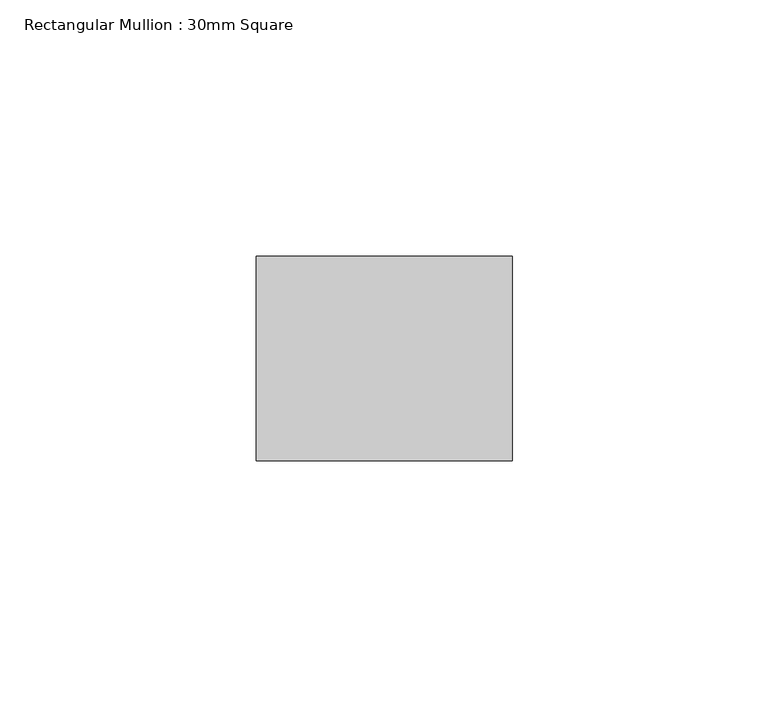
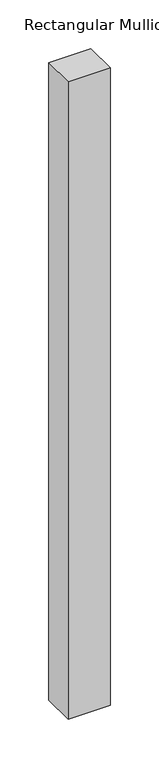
"""IFC4 building model written with IfcOpenShell, lengths in millimetres: member geometry, Rectangular Mullion : 30mm Square."""

import ifcopenshell
import ifcopenshell.guid

model = None  # the IFC model being written
_history = None  # IfcOwnerHistory: only IFC2X3 demands one
_inside = {}  # id of a spatial element -> (the spatial element, [elements in it])
_under = {}  # id of a project, library or spatial element -> (it, [spatial elements below it])
_declared = {}  # id of a project -> (the project, [libraries it declares])
_typed = {}  # id of a type object -> (the type object, [elements of that type])
_made_of = {}  # id of a material, layer set ... -> (it, [elements and type objects made of it])


def new_model(schema):
    """Start an empty IFC model of exactly this schema.

    Asked for "IFC4X3", IfcOpenShell would pick the latest addendum, in which some entities
    have other attributes; the version numbers below select the first issue.
    IFC2X3 requires an IfcOwnerHistory on every rooted entity: one is made here for all.
    """
    global model, _history
    if schema == "IFC4X3":
        model = ifcopenshell.file(schema_version=(4, 3, 0, 0))
    else:
        model = ifcopenshell.file(schema=schema)
    _inside.clear()
    _under.clear()
    _declared.clear()
    _typed.clear()
    _made_of.clear()
    _history = None
    if model.schema == "IFC2X3":
        org = make("IfcOrganization", Name="unknown")
        user = make(
            "IfcPersonAndOrganization",
            ThePerson=make("IfcPerson", FamilyName="unknown"),
            TheOrganization=org,
        )
        app = make(
            "IfcApplication",
            ApplicationDeveloper=org,
            Version="unknown",
            ApplicationFullName="unknown",
            ApplicationIdentifier="unknown",
        )
        _history = make(
            "IfcOwnerHistory",
            OwningUser=user,
            OwningApplication=app,
            ChangeAction="ADDED",
            CreationDate=0,
        )
    return model


def make(cls, **values):
    """One entity of the class cls with the attributes given. An attribute that is None is left unset."""
    return model.create_entity(
        cls, **{name: value for name, value in values.items() if value is not None}
    )


def rooted(cls, **values):
    """An entity with a GlobalId (a new one), such as an element, a storey or a relation."""
    return make(cls, GlobalId=ifcopenshell.guid.new(), OwnerHistory=_history, **values)


def si_unit(unit_type, name, prefix=None):
    """IfcSIUnit, for example si_unit("LENGTHUNIT", "METRE", prefix="MILLI")."""
    return make("IfcSIUnit", UnitType=unit_type, Prefix=prefix, Name=name)


def assignment(units):
    """IfcUnitAssignment: the units of a project."""
    return None if units is None else make("IfcUnitAssignment", Units=units)


def point(xyz):
    """IfcCartesianPoint."""
    return None if xyz is None else make("IfcCartesianPoint", Coordinates=xyz)


def direction(xyz):
    """IfcDirection."""
    return None if xyz is None else make("IfcDirection", DirectionRatios=xyz)


def frame(location, z_axis=None, x_axis=None):
    """IfcAxis2Placement3D, a coordinate frame: its origin and axes. An axis left out is left unset."""
    return make(
        "IfcAxis2Placement3D",
        Location=point(location),
        Axis=direction(z_axis),
        RefDirection=direction(x_axis),
    )


def origin():
    """The frame at (0, 0, 0) with its axes left unset."""
    return frame((0.0, 0.0, 0.0))


def place(relative_to, where):
    """IfcLocalPlacement: puts the frame where relative to a parent placement (None: the world)."""
    return make(
        "IfcLocalPlacement", PlacementRelTo=relative_to, RelativePlacement=where
    )


def context(
    kind, dimensions, precision=None, world=None, true_north=None, identifier=None
):
    """IfcGeometricRepresentationContext, for example the 3D "Model" context."""
    return make(
        "IfcGeometricRepresentationContext",
        ContextIdentifier=identifier,
        ContextType=kind,
        CoordinateSpaceDimension=dimensions,
        Precision=precision,
        WorldCoordinateSystem=world,
        TrueNorth=true_north,
    )


def project(units=None, contexts=None):
    """IfcProject with its units and contexts."""
    return rooted(
        "IfcProject",
        Name="project",
        RepresentationContexts=contexts,
        UnitsInContext=assignment(units),
    )


def spatial(cls, under=None, at=None, **own):
    """A site, building, storey or space (cls), placed at a placement, below another one or the project."""
    s = rooted(cls, ObjectPlacement=at, **own)
    if under is not None:
        _under.setdefault(under.id(), (under, []))[1].append(s)
    return s


def polyline(points):
    """IfcPolyline through the points."""
    return make("IfcPolyline", Points=[point(p) for p in points])


def outline(outer, holes=None, kind="AREA"):
    """IfcArbitraryClosedProfileDef: a profile drawn as a closed curve; with holes, ...WithVoids."""
    if holes is None:
        return make("IfcArbitraryClosedProfileDef", ProfileType=kind, OuterCurve=outer)
    return make(
        "IfcArbitraryProfileDefWithVoids",
        ProfileType=kind,
        OuterCurve=outer,
        InnerCurves=holes,
    )


def extrude(swept, where, along, depth):
    """IfcExtrudedAreaSolid: the profile swept, set in the frame where, extruded along a direction by depth."""
    return make(
        "IfcExtrudedAreaSolid",
        SweptArea=swept,
        Position=where,
        ExtrudedDirection=direction(along),
        Depth=depth,
    )


def shape(context_of_items, identifier, shape_type, items):
    """IfcShapeRepresentation: the items that make up one representation, for example the "Body"."""
    return make(
        "IfcShapeRepresentation",
        ContextOfItems=context_of_items,
        RepresentationIdentifier=identifier,
        RepresentationType=shape_type,
        Items=items,
    )


def source(mapping_origin, context_of_items, identifier, shape_type, items):
    """IfcRepresentationMap: a shape defined once, which mapped items show again and again."""
    return make(
        "IfcRepresentationMap",
        MappingOrigin=mapping_origin,
        MappedRepresentation=shape(context_of_items, identifier, shape_type, items),
    )


def transform(
    local_origin,
    x_axis=None,
    y_axis=None,
    z_axis=None,
    scale=None,
    scale2=None,
    scale3=None,
    uniform=True,
):
    """IfcCartesianTransformationOperator3D, or its non-uniform kind. x_axis, y_axis, z_axis: its Axis1, 2, 3."""
    if uniform:
        return make(
            "IfcCartesianTransformationOperator3D",
            Axis1=direction(x_axis),
            Axis2=direction(y_axis),
            LocalOrigin=point(local_origin),
            Scale=scale,
            Axis3=direction(z_axis),
        )
    return make(
        "IfcCartesianTransformationOperator3DnonUniform",
        Axis1=direction(x_axis),
        Axis2=direction(y_axis),
        LocalOrigin=point(local_origin),
        Scale=scale,
        Axis3=direction(z_axis),
        Scale2=scale2,
        Scale3=scale3,
    )


def mapped(mapping_source, mapping_target):
    """IfcMappedItem: shows the shape of a source again, moved by a transform."""
    return make(
        "IfcMappedItem", MappingSource=mapping_source, MappingTarget=mapping_target
    )


def made_of(thing, what):
    """Note that an element or type object is made of a material, layer set ...; save() writes the relation."""
    if what is not None:
        _made_of.setdefault(what.id(), (what, []))[1].append(thing)
    return thing


def element(
    cls,
    number,
    at=None,
    inside=None,
    cuts=None,
    type_object=None,
    material=None,
    context=None,
    identifier="Body",
    shape_type=None,
    held_by="IfcProductDefinitionShape",
    body=None,
    shapes=None,
    **own,
):
    """One element of the class cls, such as IfcWall. Its Tag is "e" and its number.

    at: its placement. inside: the storey or other place that contains it. cuts: it is an
    opening in that element (IfcRelVoidsElement). A single representation is given by context,
    identifier, shape_type and body (its items); several are given by shapes. held_by: the class
    of the entity that holds the representations. save() writes the other relations.
    """
    e = rooted(cls, Tag="e%d" % number, ObjectPlacement=at, **own)
    if body is not None:
        shapes = [shape(context, identifier, shape_type, body)]
    if shapes is not None:
        e.Representation = make(held_by, Representations=shapes)
    if inside is not None:
        _inside.setdefault(inside.id(), (inside, []))[1].append(e)
    if cuts is not None:
        rooted(
            "IfcRelVoidsElement", RelatingBuildingElement=cuts, RelatedOpeningElement=e
        )
    if type_object is not None:
        _typed.setdefault(type_object.id(), (type_object, []))[1].append(e)
    return made_of(e, material)


def aggregate(whole, parts):
    """IfcRelAggregates: a whole, such as a stair, and the parts it consists of."""
    return rooted("IfcRelAggregates", RelatingObject=whole, RelatedObjects=parts)


def save(model, path):
    """Write the relations noted so far, then the file.

    IfcRelAggregates (storeys below a building ...), IfcRelContainedInSpatialStructure (elements
    in a storey), IfcRelDefinesByType, IfcRelAssociatesMaterial and IfcRelDeclares: one each for
    every whole, place, type object, material and project.
    """
    for whole, parts in _under.values():
        aggregate(whole, parts)
    for where, things in _inside.values():
        rooted(
            "IfcRelContainedInSpatialStructure",
            RelatedElements=things,
            RelatingStructure=where,
        )
    for kind, things in _typed.values():
        rooted("IfcRelDefinesByType", RelatedObjects=things, RelatingType=kind)
    for what, things in _made_of.values():
        rooted("IfcRelAssociatesMaterial", RelatedObjects=things, RelatingMaterial=what)
    for by, libraries in _declared.values():
        rooted("IfcRelDeclares", RelatingContext=by, RelatedDefinitions=libraries)
    model.write(path)


def rectangular_mullion_30mm_square_0beb0618(model_context):
    return source(origin(), model_context, "Body", "SweptSolid", [
        extrude(outline(polyline([(0.0, 20.0), (0.0, -20.0), (-50.0, -20.0), (-50.0, 20.0), (0.0, 20.0)])), frame((0.0, 0.0, -800.0), z_axis=(0.0, 0.0, 1.0), x_axis=(1.0, 0.0, 0.0)), (0.0, 0.0, 1.0), 800.0),
    ])


if __name__ == "__main__":
    model = new_model("IFC4")
    model_context = context("Model", 3, world=origin())
    ifc_project = project(units=[si_unit("LENGTHUNIT", "METRE", prefix="MILLI")], contexts=[model_context])
    site = spatial("IfcSite", under=ifc_project)
    building = spatial("IfcBuilding", under=site)
    placement = place(None, origin())
    rectangular_mullion_30mm_square_shape = rectangular_mullion_30mm_square_0beb0618(model_context)
    element("IfcMember", 1, ObjectType="Rectangular Mullion : 30mm Square", at=placement, inside=building, context=model_context, shape_type="MappedRepresentation", body=[
        mapped(rectangular_mullion_30mm_square_shape, transform((0.0, 0.0, 0.0), x_axis=(1.0, 0.0, 0.0), y_axis=(0.0, 1.0, 0.0), z_axis=(0.0, 0.0, 1.0))),
    ])
    save(model, "model.ifc")
